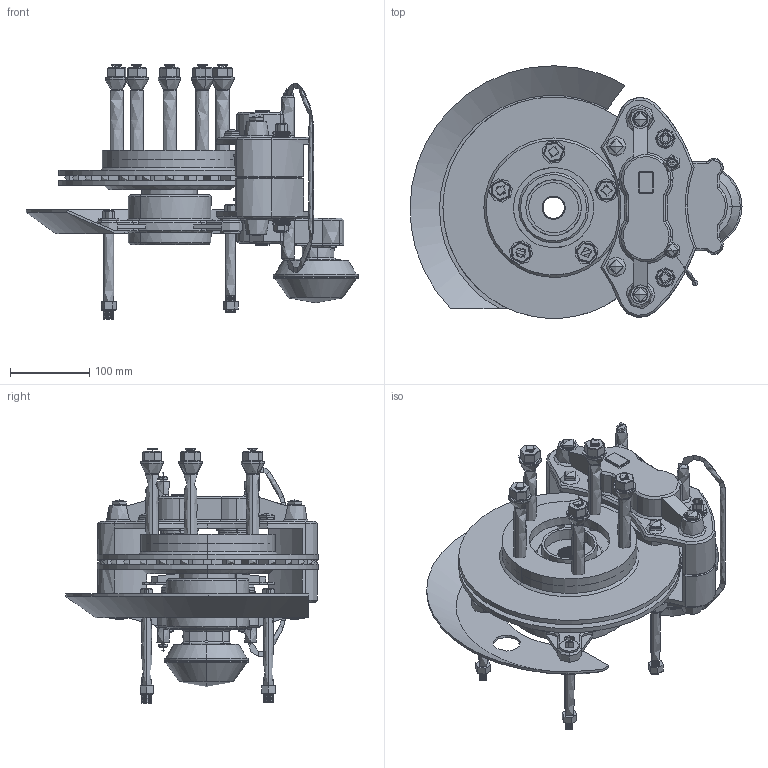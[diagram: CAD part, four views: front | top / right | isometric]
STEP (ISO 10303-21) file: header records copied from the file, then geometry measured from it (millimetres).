
FILE_DESCRIPTION(('none'),'2,1');
FILE_NAME('~DiskBrakeAssembly-01','Fri Feb 23 12:08:32 2007',('Unknown author'),('ADOBE System Inc.'),'A3DConverter','Windows','Unknown authorisation');
FILE_SCHEMA( ('CONFIG_CONTROL_DESIGN') );
Length unit declared in the file: millimetre
Products named in the file (77): ~DiskBrakeAssembly-01; Default; HubAssembly-02-1 (Default) ; hub-02-1 (Default) ; lugnut-1 (Default) ; lugnut-2 (Default) ; lugnut-3 (Default) ; lugnut-4 (Default) ; lugnut-5 (Default) ; knucklebracket-1 (Default) ; washer-01-1 (Default) ; washer-01-2 (Default) ; washer-01-3 (Default) ; washer-01-4 (Default) ; caliperstud-1 (Default) ; caliperstud-2 (Default) ; caliperstud-3 (Default) ; caliperstud-4 (Default) ; rotor-1 (Default) ; Nut-1 (Default) ; Nut-2 (Default) ; Nut-3 (Default) ; Nut-4 (Default) ; dustcover-2 (Default) ; washer-01-7 (Default) ; washer-01-8 (Default) ; CaliperSubassmebly-01-1 (Default) ; caliper3R-1 (Default) ; Caliper3L-1 (Default) ; booster-1 (Default) ; pistonassemblyR-2 (Default) ; pistonR-1 (Default) ; ring-01-1 (Default) ; rubberseal-piston-1 (Default) ; retainer clip-1 (Default) ; pistonassemblyR-3 (Default) ; pistonassemblyR-4 (Default) ; pistonassemblyR-5 (Default) ; brakepad-1 (Default) ; brakepad-2 (Default) 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
Assembly tree (76 placements, depth 5):
  ~DiskBrakeAssembly-01
    Default
      HubAssembly-02-1 (Default) 
        hub-02-1 (Default) 
        lugnut-1 (Default) 
        lugnut-2 (Default) 
        lugnut-3 (Default) 
        lugnut-4 (Default) 
        lugnut-5 (Default) 
        knucklebracket-1 (Default) 
        washer-01-1 (Default) 
        washer-01-2 (Default) 
        washer-01-3 (Default) 
        washer-01-4 (Default) 
        caliperstud-1 (Default) 
        caliperstud-2 (Default) 
        caliperstud-3 (Default) 
        caliperstud-4 (Default) 
        rotor-1 (Default) 
        Nut-1 (Default) 
        Nut-2 (Default) 
        Nut-3 (Default) 
        Nut-4 (Default) 
        dustcover-2 (Default) 
        washer-01-7 (Default) 
        washer-01-8 (Default) 
      CaliperSubassmebly-01-1 (Default) 
        caliper3R-1 (Default) 
        Caliper3L-1 (Default) 
        booster-1 (Default) 
        pistonassemblyR-2 (Default) 
          pistonR-1 (Default) 
          ring-01-1 (Default) 
          rubberseal-piston-1 (Default) 
          retainer clip-1 (Default) 
        pistonassemblyR-3 (Default) 
          pistonR-1 (Default) 
          ring-01-1 (Default) 
          rubberseal-piston-1 (Default) 
          retainer clip-1 (Default) 
        pistonassemblyR-4 (Default) 
          pistonR-1 (Default) 
          ring-01-1 (Default) 
          rubberseal-piston-1 (Default) 
          retainer clip-1 (Default) 
        pistonassemblyR-5 (Default) 
          pistonR-1 (Default) 
          ring-01-1 (Default) 
          rubberseal-piston-1 (Default) 
          retainer clip-1 (Default) 
        brakepad-1 (Default) 
        brakepad-2 (Default) 
        mountingscrew-1 (Default) 
        mountingscrew-2 (Default) 
        bleederscrew-1 (Default) 
        bleederscrew-2 (Default) 
        tube-6 (Default) 
        tube-7 (Default) 
        tube-8 (Default) 
        tube-9 (Default) 
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Bounding box: 418.94 x 318.6 x 320.74 mm (x, y, z)
Volume: 4237012.4 mm3; surface area: 1072159.8 mm2
Topology: 69 solids, 69 shells, 5701 faces, 13297 edges, 7871 vertices
Faces by surface type: bspline 5701
Entity records: 146743 total; most frequent: CARTESIAN_POINT 99262, ORIENTED_EDGE 14972, EDGE_CURVE 7486, VERTEX_POINT 4582, EDGE_LOOP 3316, FACE_BOUND 3316, ADVANCED_FACE 3059, B_SPLINE_CURVE_WITH_KNOTS 2427
